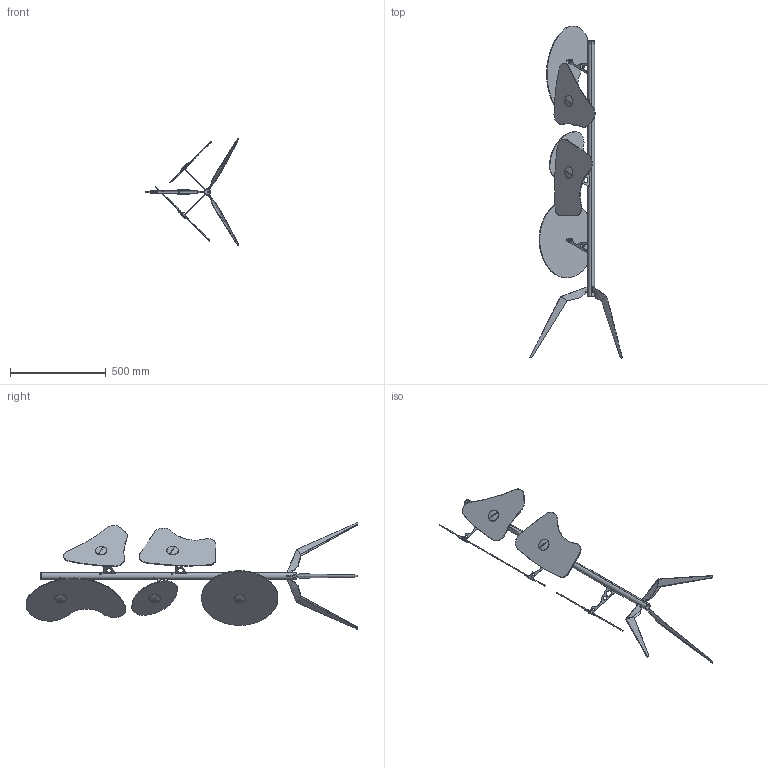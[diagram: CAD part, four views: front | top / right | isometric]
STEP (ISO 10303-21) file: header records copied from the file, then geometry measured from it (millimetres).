
FILE_DESCRIPTION (( 'STEP AP214' ), '1' );
FILE_NAME ('036_STD_F_PL_3D.STEP', '2021-05-20T13:31:51', ( '' ), ( '' ), 'SwSTEP 2.0', 'SolidWorks 2021', '' );
FILE_SCHEMA (( 'AUTOMOTIVE_DESIGN' ));
Length unit declared in the file: millimetre
Products named in the file (1): 036_STD_F_PL_3D
Bounding box: 484.76 x 1731.23 x 559.02 mm (x, y, z)
Volume: 2210695.1 mm3; surface area: 1403512.9 mm2
Topology: 25 solids, 25 shells, 519 faces, 1246 edges, 776 vertices
Faces by surface type: cylinder 186, plane 178, torus 86, cone 34, bspline 25, sphere 10
Entity records: 50907 total; most frequent: CARTESIAN_POINT 32765, DIRECTION 2587, ORIENTED_EDGE 2464, EDGE_CURVE 1232, AXIS2_PLACEMENT_3D 1043, VERTEX_POINT 776, EDGE_LOOP 608, CIRCLE 548
